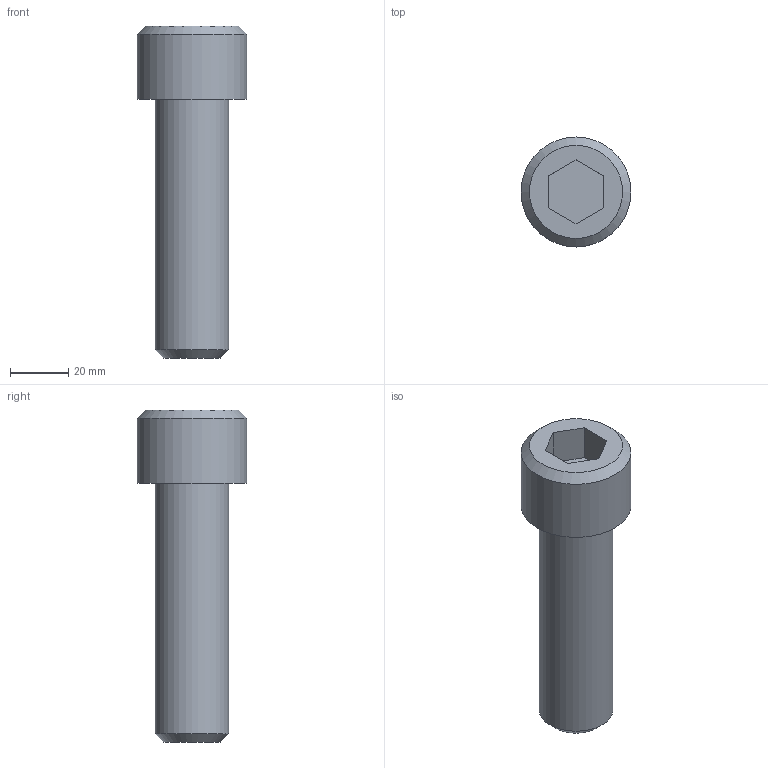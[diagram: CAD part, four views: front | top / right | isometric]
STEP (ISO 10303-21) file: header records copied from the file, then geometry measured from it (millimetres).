
FILE_DESCRIPTION((''),'2;1');
FILE_NAME('C:\Users\Stan\Desktop\import\SHCS 1-8 UNCx3.5.ipt.step','2011-08-18T17:44:16',(''),(''),'Autodesk Inventor 2012','Autodesk Inventor 2012','');
FILE_SCHEMA(('AUTOMOTIVE_DESIGN { 1 0 10303 214 1 1 1 1 }'));
Length unit declared in the file: inch
Products named in the file (1): SHCS 1-8 UNCx3.5
Bounding box: 37.8 x 37.8 x 114.15 mm (x, y, z)
Volume: 68639.2 mm3; surface area: 12806.7 mm2
Topology: 1 solids, 1 shells, 14 faces, 28 edges, 18 vertices
Faces by surface type: plane 10, cone 2, cylinder 2
Full cylindrical faces by diameter (mm): 25.4 x1, 37.795 x1
Entity records: 391 total; most frequent: DIRECTION 60, CARTESIAN_POINT 57, ORIENTED_EDGE 48, EDGE_CURVE 24, AXIS2_PLACEMENT_3D 21, EDGE_LOOP 20, VERTEX_POINT 18, VECTOR 18
